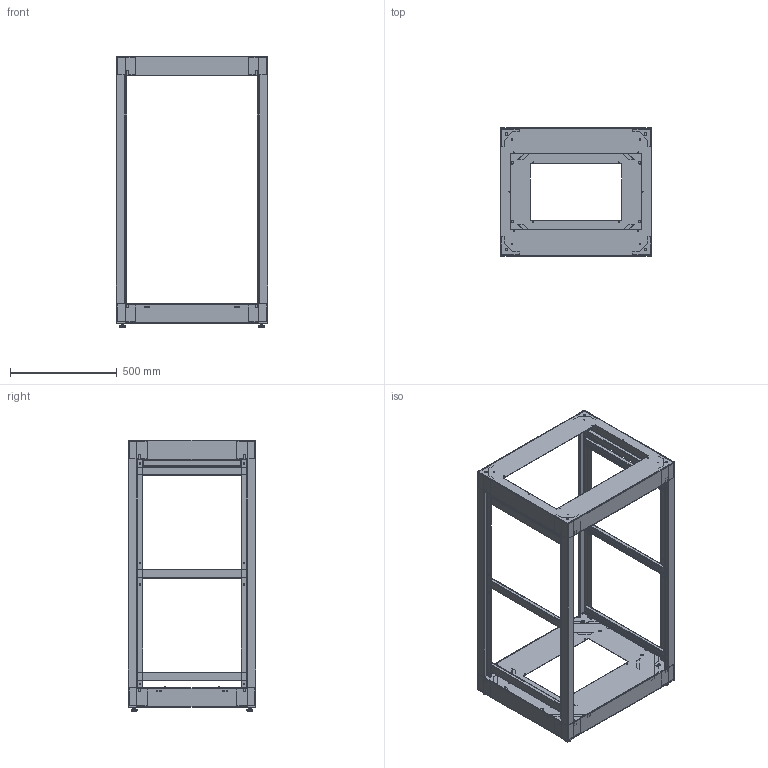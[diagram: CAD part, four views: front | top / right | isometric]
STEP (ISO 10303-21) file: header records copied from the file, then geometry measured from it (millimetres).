
FILE_DESCRIPTION( ( 'Unknown' ), '1' );
FILE_NAME( 'Q:/WEB DRAWINGS/STEP/C2F244223.stp', 'Unknown', ( 'Unknown' ), ( 'Unknown' ), 'PSStep 16.0.42', 'Unknown', ' ' );
FILE_SCHEMA( ( 'AUTOMOTIVE_DESIGN { 1 0 10303 214 1 1 1 1 }' ) );
Length unit declared in the file: millimetre
Products named in the file (27): COM47017; NTS16540; NTS16540-oa6; NTS16540-oa7; NTS16540-oa8; COM52107-3; PIN17615; PIN17615-oa3; PIN17615-oa4; PIN17615-oa5; COM50730; std26093; COM53000; NTS18063; COM55223-5; COM43694; COM53481; Assem1; FET07696; FET07696-oa0; FET07696-oa1; FET07696-oa2; COM52979
Assembly tree (42 placements, depth 4):
  Assem1
    FET07696
    FET07696-oa0
    FET07696-oa1
    FET07696-oa2
    COM52979  x4
    COM53000  x4
      NTS18063
      COM53000
    COM52107-3
      PIN17615
      PIN17615-oa3
      PIN17615-oa4
      PIN17615-oa5
      COM52107-3
      COM47017  x4
        NTS16540
        NTS16540-oa6
        NTS16540-oa7
        NTS16540-oa8
        COM47017
    COM50730
      std26093  x4
      COM50730
    COM55223-5  x2
      COM43694
      COM53481
Bounding box: 711.2 x 600.08 x 1274.11 mm (x, y, z)
Volume: 4257714.7 mm3; surface area: 4627933.5 mm2
Topology: 56 solids, 56 shells, 1530 faces, 3912 edges, 2534 vertices
Faces by surface type: plane 916, cylinder 506, bspline 72, torus 36
Full cylindrical faces by diameter (mm): 4.826 x4, 5.08 x4, 5.105 x16, 5.537 x18, 6.411 x4, 7.442 x16, 7.938 x20, 7.95 x16, 9.525 x8, 9.804 x4, 11.506 x8, 11.684 x4, 12.192 x4, 13.792 x4, 24.892 x4, 24.917 x4, 25.654 x4, 26.162 x4
Entity records: 24819 total; most frequent: CARTESIAN_POINT 3739, DIRECTION 3248, ORIENTED_EDGE 3022, EDGE_CURVE 1511, AXIS2_PLACEMENT_3D 1107, LINE 1034, VECTOR 1034, VERTEX_POINT 1025
